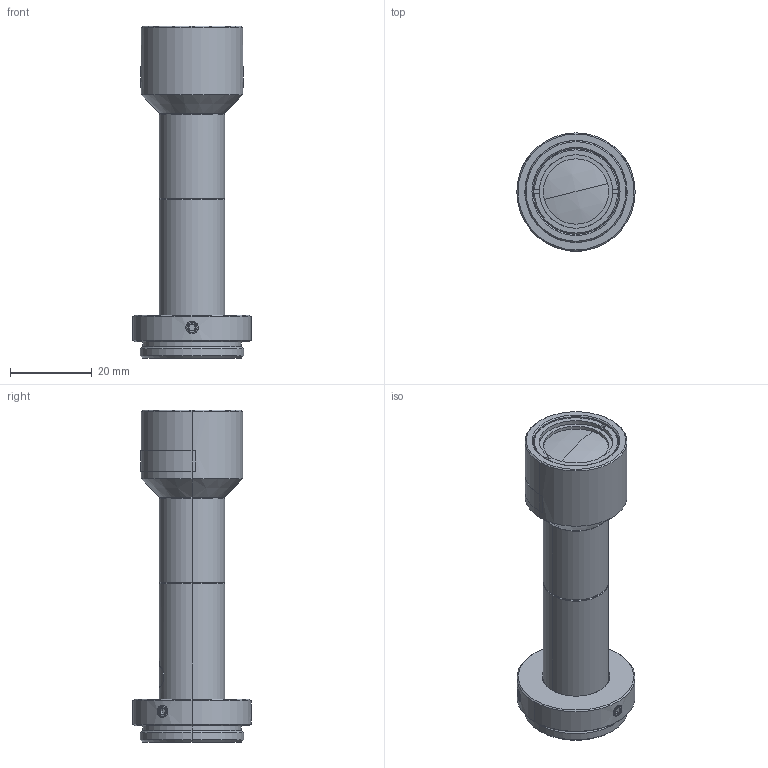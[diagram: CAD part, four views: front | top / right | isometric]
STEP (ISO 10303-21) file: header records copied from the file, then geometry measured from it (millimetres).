
FILE_DESCRIPTION(('LS-FFL-0040'),'2;1');
FILE_NAME('LS-FFL-0040.stp','2026-10-15T21:50:12',('LumaSpec Vision'),('LumaSpec Vision'),'LumaSpec Vision','LumaSpec Vision','');
FILE_SCHEMA(('AUTOMOTIVE_DESIGN { 1 0 10303 214 1 1 1 1 }'));
Length unit declared in the file: millimetre
Products named in the file (11): LS-FFL-0040
Assembly tree (10 placements, depth 2):
  LS-FFL-0040
    (unnamed)
    (unnamed)
    (unnamed)
    (unnamed)
    (unnamed)
    (unnamed)
    (unnamed)
    (unnamed)
    (unnamed)
    (unnamed)
Bounding box: 29 x 29 x 81.4 mm (x, y, z)
Volume: 15818.4 mm3; surface area: 13312.1 mm2
Topology: 10 solids, 10 shells, 279 faces, 613 edges, 378 vertices
Faces by surface type: cone 105, cylinder 89, plane 73, bspline 8, sphere 4
Entity records: 20946 total; most frequent: CARTESIAN_POINT 8301, DIRECTION 2416, ORIENTED_EDGE 1226, PCURVE 1226, DEFINITIONAL_REPRESENTATION 1226, LINE 1200, VECTOR 1200, EDGE_CURVE 613
